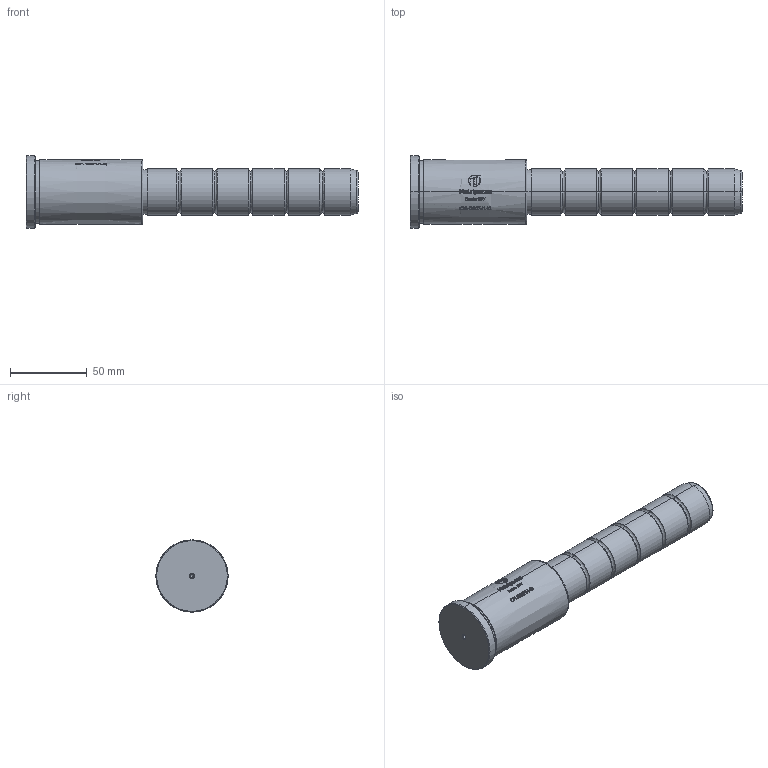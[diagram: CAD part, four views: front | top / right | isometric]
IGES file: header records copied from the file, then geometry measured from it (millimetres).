
Start section: SolidWorks IGES file using analytic representation for surfaces
Global section: file name: C:\Users\Windows 10 PRO\Downloads\CFM - 10-09\CFM  - Nova\30\CFM30076140.IGS; native system: SolidWorks 2024; preprocessor: SolidWorks 2024; author: Windows 10 PRO; date: 260910.210414; units: millimetre
Bounding box: 216 x 47 x 47 mm (x, y, z)
Surface area: 27500.6 mm2 (no closed solid volume)
Topology: 0 solids, 0 shells, 511 faces, 5464 edges, 5460 vertices
Faces by surface type: bspline 406, revolution 105
